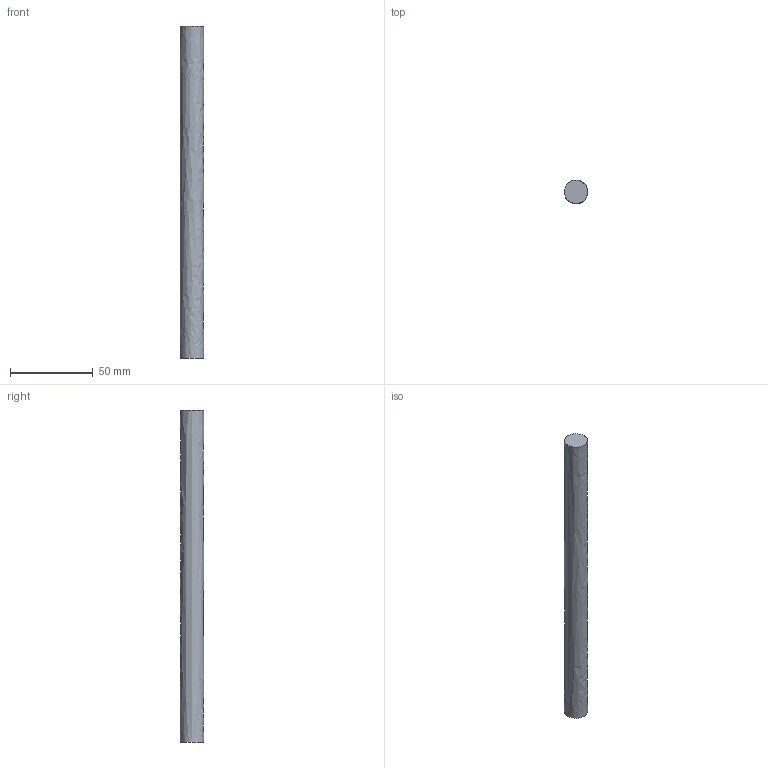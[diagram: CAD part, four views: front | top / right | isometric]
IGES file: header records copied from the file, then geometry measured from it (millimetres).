
Global section: file name: 2023012_B_PSEN_opII_testpiece_F_14; native system: Autodesk Inventor 2022; preprocessor: unknown; author: ES-OES; date: 20220602.172945; units: millimetre
Bounding box: 14 x 14.01 x 200 mm (x, y, z)
Volume: 30795.4 mm3; surface area: 9108.5 mm2
Topology: 1 solids, 1 shells, 38 faces, 95 edges, 64 vertices
Faces by surface type: bspline 38
